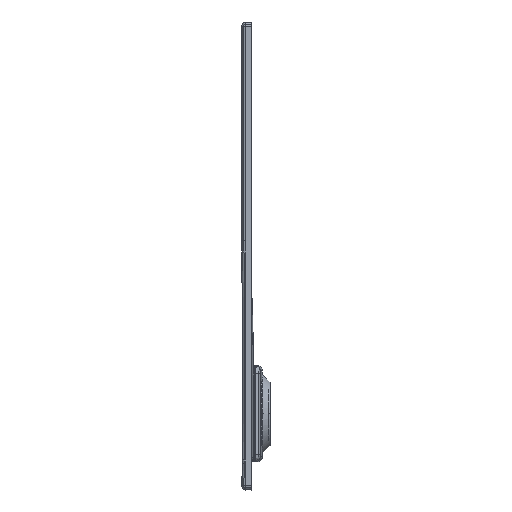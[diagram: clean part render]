
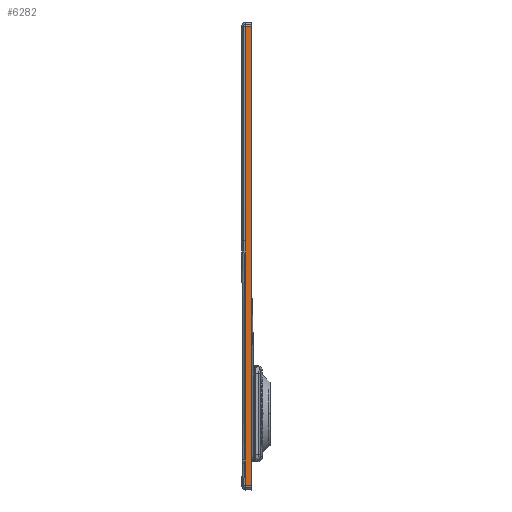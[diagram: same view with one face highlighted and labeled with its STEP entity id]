
A CAD part, left-side view. The second image highlights one B-rep face of the part: STEP entity #6282.
In plain terms, the highlighted planar face has unit normal (-1, 0, 0).
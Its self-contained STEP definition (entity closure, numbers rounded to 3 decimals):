
#1=DIRECTION('',(0.,0.,-1.));
#2=VECTOR('',#1,686.);
#3=CARTESIAN_POINT('',(-800.,-15.,693.));
#4=LINE('',#3,#2);
#5=DIRECTION('',(0.,1.,0.));
#6=VECTOR('',#5,9.981);
#7=CARTESIAN_POINT('',(-800.,-15.,7.));
#8=LINE('',#7,#6);
#9=DIRECTION('',(0.,-0.003,1.));
#10=VECTOR('',#9,32.993);
#11=CARTESIAN_POINT('',(-800.,-5.019,7.));
#12=LINE('',#11,#10);
#13=DIRECTION('',(0.,0.,1.));
#14=VECTOR('',#13,320.497);
#15=CARTESIAN_POINT('',(-800.,-5.048,372.503));
#16=LINE('',#15,#14);
#73=DIRECTION('',(0.,1.,0.));
#74=VECTOR('',#73,10.);
#75=CARTESIAN_POINT('',(-800.,-15.,693.));
#76=LINE('',#75,#74);
#106=CARTESIAN_POINT('',(-800.,-5.048,372.503));
#107=CARTESIAN_POINT('',(-800.,-5.055,336.301));
#108=CARTESIAN_POINT('',(-800.,-5.068,263.771));
#109=CARTESIAN_POINT('',(-800.,-5.088,154.604));
#110=CARTESIAN_POINT('',(-800.,-5.101,81.576));
#111=CARTESIAN_POINT('',(-800.,-5.108,45.));
#134=DIRECTION('',(0.,0.,-1.));
#135=VECTOR('',#134,5.007);
#136=CARTESIAN_POINT('',(-800.,-5.108,45.));
#137=LINE('',#136,#135);
#5811=CARTESIAN_POINT('',(-800.,-15.,693.));
#5812=CARTESIAN_POINT('',(-800.,-15.,7.));
#5813=VERTEX_POINT('',#5811);
#5814=VERTEX_POINT('',#5812);
#5815=CARTESIAN_POINT('',(-800.,-5.019,
7.));
#5816=VERTEX_POINT('',#5815);
#5817=CARTESIAN_POINT('',(-800.,-5.108,
39.993));
#5818=VERTEX_POINT('',#5817);
#5819=CARTESIAN_POINT('',(-800.,-5.108,45.));
#5820=VERTEX_POINT('',#5819);
#5821=VERTEX_POINT('',#106);
#5822=CARTESIAN_POINT('',(-800.,-5.,
693.));
#5823=VERTEX_POINT('',#5822);
#6261=CARTESIAN_POINT('',(-800.,0.,0.));
#6262=DIRECTION('',(-1.,0.,0.));
#6263=DIRECTION('',(0.,0.,1.));
#6264=AXIS2_PLACEMENT_3D('',#6261,#6262,#6263);
#6265=PLANE('',#6264);
#6267=ORIENTED_EDGE('',*,*,#6266,.T.);
#6269=ORIENTED_EDGE('',*,*,#6268,.T.);
#6271=ORIENTED_EDGE('',*,*,#6270,.T.);
#6273=ORIENTED_EDGE('',*,*,#6272,.F.);
#6275=ORIENTED_EDGE('',*,*,#6274,.F.);
#6277=ORIENTED_EDGE('',*,*,#6276,.T.);
#6279=ORIENTED_EDGE('',*,*,#6278,.F.);
#6280=EDGE_LOOP('',(#6267,#6269,#6271,#6273,#6275,#6277,#6279));
#6281=FACE_OUTER_BOUND('',#6280,.F.);
#6282=ADVANCED_FACE('',(#6281),#6265,.T.);
#112=B_SPLINE_CURVE_WITH_KNOTS('',3,(#106,#107,#108,#109,#110,#111),
.UNSPECIFIED.,.F.,.F.,(4,1,1,4),(0.,0.333,0.667,1.),
.UNSPECIFIED.);
#6266=EDGE_CURVE('',#5813,#5814,#4,.T.);
#6268=EDGE_CURVE('',#5814,#5816,#8,.T.);
#6270=EDGE_CURVE('',#5816,#5818,#12,.T.);
#6272=EDGE_CURVE('',#5820,#5818,#137,.T.);
#6274=EDGE_CURVE('',#5821,#5820,#112,.T.);
#6276=EDGE_CURVE('',#5821,#5823,#16,.T.);
#6278=EDGE_CURVE('',#5813,#5823,#76,.T.);
